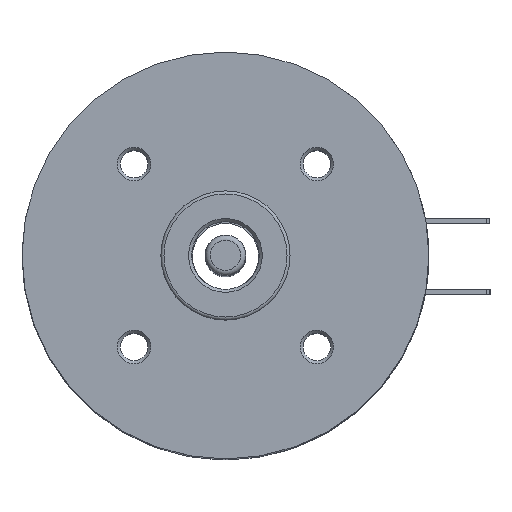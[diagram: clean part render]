
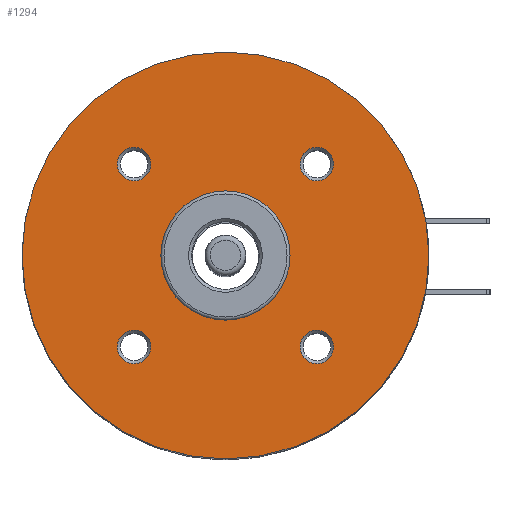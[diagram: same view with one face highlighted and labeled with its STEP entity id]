
A CAD part, top view. The second image highlights one B-rep face of the part: STEP entity #1294.
In plain terms, the highlighted planar face has unit normal (0, 0, 1).
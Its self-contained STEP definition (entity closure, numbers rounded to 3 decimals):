
#102=FACE_BOUND('',#252,.T.);
#103=FACE_BOUND('',#253,.T.);
#104=FACE_BOUND('',#254,.T.);
#105=FACE_BOUND('',#255,.T.);
#106=FACE_BOUND('',#256,.T.);
#137=PLANE('',#1533);
#175=FACE_OUTER_BOUND('',#251,.T.);
#251=EDGE_LOOP('',(#931));
#252=EDGE_LOOP('',(#932));
#253=EDGE_LOOP('',(#933));
#254=EDGE_LOOP('',(#934));
#255=EDGE_LOOP('',(#935));
#256=EDGE_LOOP('',(#936));
#554=CIRCLE('',#1532,1.65);
#555=CIRCLE('',#1534,20.);
#556=CIRCLE('',#1535,1.65);
#557=CIRCLE('',#1536,1.65);
#558=CIRCLE('',#1537,6.35);
#559=CIRCLE('',#1538,1.65);
#635=VERTEX_POINT('',#2139);
#636=VERTEX_POINT('',#2143);
#637=VERTEX_POINT('',#2145);
#638=VERTEX_POINT('',#2147);
#639=VERTEX_POINT('',#2149);
#640=VERTEX_POINT('',#2151);
#752=EDGE_CURVE('',#635,#635,#554,.T.);
#753=EDGE_CURVE('',#636,#636,#555,.T.);
#754=EDGE_CURVE('',#637,#637,#556,.T.);
#755=EDGE_CURVE('',#638,#638,#557,.T.);
#756=EDGE_CURVE('',#639,#639,#558,.T.);
#757=EDGE_CURVE('',#640,#640,#559,.T.);
#931=ORIENTED_EDGE('',*,*,#753,.F.);
#932=ORIENTED_EDGE('',*,*,#754,.F.);
#933=ORIENTED_EDGE('',*,*,#755,.F.);
#934=ORIENTED_EDGE('',*,*,#756,.T.);
#935=ORIENTED_EDGE('',*,*,#757,.F.);
#936=ORIENTED_EDGE('',*,*,#752,.F.);
#1294=ADVANCED_FACE('',(#175,#102,#103,#104,#105,#106),#137,.F.);
#1532=AXIS2_PLACEMENT_3D('',#2141,#1707,#1708);
#1533=AXIS2_PLACEMENT_3D('',#2142,#1709,#1710);
#1534=AXIS2_PLACEMENT_3D('',#2144,#1711,#1712);
#1535=AXIS2_PLACEMENT_3D('',#2146,#1713,#1714);
#1536=AXIS2_PLACEMENT_3D('',#2148,#1715,#1716);
#1537=AXIS2_PLACEMENT_3D('',#2150,#1717,#1718);
#1538=AXIS2_PLACEMENT_3D('',#2152,#1719,#1720);
#1707=DIRECTION('center_axis',(0.,0.,1.));
#1708=DIRECTION('ref_axis',(0.,-1.,0.));
#1709=DIRECTION('center_axis',(0.,0.,-1.));
#1710=DIRECTION('ref_axis',(-1.,0.,0.));
#1711=DIRECTION('center_axis',(0.,0.,-1.));
#1712=DIRECTION('ref_axis',(-1.,0.,0.));
#1713=DIRECTION('center_axis',(0.,0.,1.));
#1714=DIRECTION('ref_axis',(1.,0.,0.));
#1715=DIRECTION('center_axis',(0.,0.,1.));
#1716=DIRECTION('ref_axis',(-1.,0.,0.));
#1717=DIRECTION('center_axis',(0.,0.,-1.));
#1718=DIRECTION('ref_axis',(-1.,0.,0.));
#1719=DIRECTION('center_axis',(0.,0.,1.));
#1720=DIRECTION('ref_axis',(0.,1.,0.));
#2139=CARTESIAN_POINT('',(-8.98,-7.33,2.6));
#2141=CARTESIAN_POINT('Origin',(-8.98,-8.98,2.6));
#2142=CARTESIAN_POINT('Origin',(0.,0.,2.6));
#2143=CARTESIAN_POINT('',(20.,0.,2.6));
#2144=CARTESIAN_POINT('Origin',(0.,0.,2.6));
#2145=CARTESIAN_POINT('',(7.33,-8.98,2.6));
#2146=CARTESIAN_POINT('Origin',(8.98,-8.98,2.6));
#2147=CARTESIAN_POINT('',(-7.33,8.98,2.6));
#2148=CARTESIAN_POINT('Origin',(-8.98,8.98,2.6));
#2149=CARTESIAN_POINT('',(6.35,0.,2.6));
#2150=CARTESIAN_POINT('Origin',(0.,0.,2.6));
#2151=CARTESIAN_POINT('',(8.98,7.33,2.6));
#2152=CARTESIAN_POINT('Origin',(8.98,8.98,2.6));
